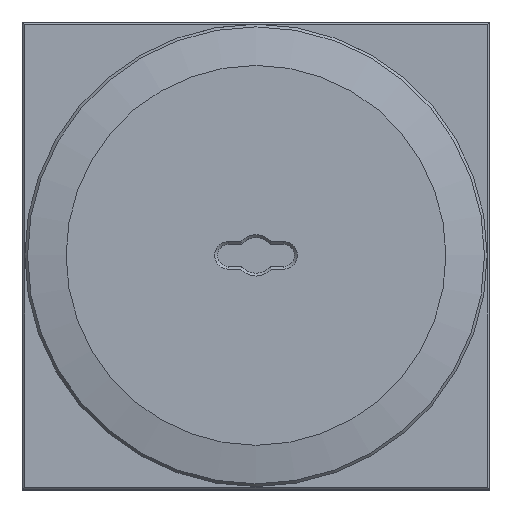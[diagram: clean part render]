
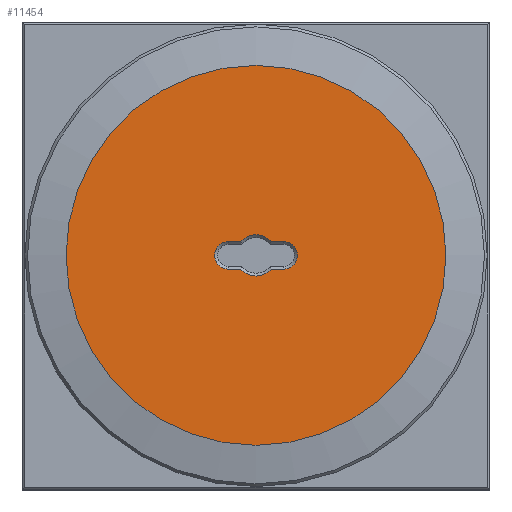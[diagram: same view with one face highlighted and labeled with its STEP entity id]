
A CAD part, top view. The second image highlights one B-rep face of the part: STEP entity #11454.
In plain terms, the highlighted planar face has unit normal (0, 0, 1).
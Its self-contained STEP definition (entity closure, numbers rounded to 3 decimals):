
#778=FACE_BOUND('',#4124,.T.);
#1019=PLANE('',#12770);
#1781=LINE('',#28752,#2533);
#1784=LINE('',#28773,#2536);
#1786=LINE('',#28785,#2538);
#1789=LINE('',#28803,#2541);
#2533=VECTOR('',#15735,10.);
#2536=VECTOR('',#15746,10.);
#2538=VECTOR('',#15756,10.);
#2541=VECTOR('',#15773,10.);
#3366=FACE_OUTER_BOUND('',#4123,.T.);
#4123=EDGE_LOOP('',(#10687));
#4124=EDGE_LOOP('',(#10688,#10689,#10690,#10691,#10692,#10693,#10694,#10695));
#4714=CIRCLE('',#12750,7.5);
#4716=CIRCLE('',#12754,5.);
#4719=CIRCLE('',#12759,7.5);
#4720=CIRCLE('',#12761,5.);
#4724=CIRCLE('',#12771,69.);
#5735=VERTEX_POINT('',#28749);
#5736=VERTEX_POINT('',#28751);
#5737=VERTEX_POINT('',#28758);
#5741=VERTEX_POINT('',#28770);
#5742=VERTEX_POINT('',#28772);
#5744=VERTEX_POINT('',#28780);
#5746=VERTEX_POINT('',#28790);
#5748=VERTEX_POINT('',#28798);
#5754=VERTEX_POINT('',#28824);
#7374=EDGE_CURVE('',#5735,#5736,#1781,.T.);
#7376=EDGE_CURVE('',#5736,#5737,#4714,.T.);
#7381=EDGE_CURVE('',#5741,#5742,#1784,.T.);
#7384=EDGE_CURVE('',#5744,#5741,#4716,.T.);
#7386=EDGE_CURVE('',#5737,#5744,#1786,.T.);
#7389=EDGE_CURVE('',#5742,#5746,#4719,.T.);
#7392=EDGE_CURVE('',#5748,#5735,#4720,.T.);
#7394=EDGE_CURVE('',#5746,#5748,#1789,.T.);
#7405=EDGE_CURVE('',#5754,#5754,#4724,.T.);
#10687=ORIENTED_EDGE('',*,*,#7405,.F.);
#10688=ORIENTED_EDGE('',*,*,#7381,.F.);
#10689=ORIENTED_EDGE('',*,*,#7384,.F.);
#10690=ORIENTED_EDGE('',*,*,#7386,.F.);
#10691=ORIENTED_EDGE('',*,*,#7376,.F.);
#10692=ORIENTED_EDGE('',*,*,#7374,.F.);
#10693=ORIENTED_EDGE('',*,*,#7392,.F.);
#10694=ORIENTED_EDGE('',*,*,#7394,.F.);
#10695=ORIENTED_EDGE('',*,*,#7389,.F.);
#11454=ADVANCED_FACE('',(#3366,#778),#1019,.T.);
#12750=AXIS2_PLACEMENT_3D('',#28759,#15738,#15739);
#12754=AXIS2_PLACEMENT_3D('',#28782,#15750,#15751);
#12759=AXIS2_PLACEMENT_3D('',#28791,#15762,#15763);
#12761=AXIS2_PLACEMENT_3D('',#28800,#15767,#15768);
#12770=AXIS2_PLACEMENT_3D('',#28823,#15794,#15795);
#12771=AXIS2_PLACEMENT_3D('',#28825,#15796,#15797);
#15735=DIRECTION('',(0.,-1.,0.));
#15738=DIRECTION('center_axis',(0.,0.,1.));
#15739=DIRECTION('ref_axis',(-0.615,0.788,0.));
#15746=DIRECTION('',(0.,1.,0.));
#15750=DIRECTION('center_axis',(0.,0.,1.));
#15751=DIRECTION('ref_axis',(0.,-1.,0.));
#15756=DIRECTION('',(0.,-1.,0.));
#15762=DIRECTION('center_axis',(0.,0.,1.));
#15763=DIRECTION('ref_axis',(0.615,-0.788,0.));
#15767=DIRECTION('center_axis',(0.,0.,1.));
#15768=DIRECTION('ref_axis',(0.,1.,0.));
#15773=DIRECTION('',(0.,1.,0.));
#15794=DIRECTION('center_axis',(0.,0.,1.));
#15795=DIRECTION('ref_axis',(1.,0.,0.));
#15796=DIRECTION('center_axis',(0.,0.,-1.));
#15797=DIRECTION('ref_axis',(-1.,0.,0.));
#28749=CARTESIAN_POINT('',(-5.,10.,5.));
#28751=CARTESIAN_POINT('',(-5.,5.59,5.));
#28752=CARTESIAN_POINT('',(-5.,2.562,5.));
#28758=CARTESIAN_POINT('',(-5.,-5.59,5.));
#28759=CARTESIAN_POINT('Origin',(0.,0.,5.));
#28770=CARTESIAN_POINT('',(5.,-10.,5.));
#28772=CARTESIAN_POINT('',(5.,-5.59,5.));
#28773=CARTESIAN_POINT('',(5.,-2.562,5.));
#28780=CARTESIAN_POINT('',(-5.,-10.,5.));
#28782=CARTESIAN_POINT('Origin',(0.,-10.,5.));
#28785=CARTESIAN_POINT('',(-5.,-5.,5.));
#28790=CARTESIAN_POINT('',(5.,5.59,5.));
#28791=CARTESIAN_POINT('Origin',(0.,0.,5.));
#28798=CARTESIAN_POINT('',(5.,10.,5.));
#28800=CARTESIAN_POINT('Origin',(0.,10.,5.));
#28803=CARTESIAN_POINT('',(5.,5.,5.));
#28823=CARTESIAN_POINT('Origin',(0.,0.,5.));
#28824=CARTESIAN_POINT('',(69.,0.,5.));
#28825=CARTESIAN_POINT('Origin',(0.,0.,5.));
